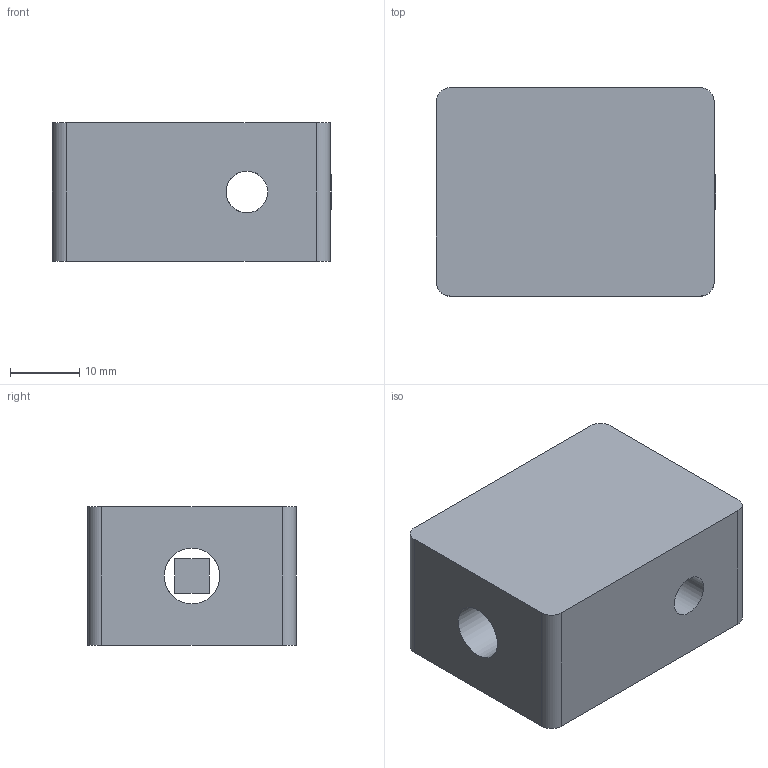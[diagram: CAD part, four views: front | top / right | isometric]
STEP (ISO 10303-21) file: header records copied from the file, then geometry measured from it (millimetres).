
FILE_DESCRIPTION(('Open CASCADE Model'),'2;1');
FILE_NAME('Open CASCADE Shape Model','2026-09-13T14:05:14',('Author'),( 'Open CASCADE'),'Open CASCADE STEP processor 7.8','Open CASCADE 7.8' ,'Unknown');
FILE_SCHEMA(('AUTOMOTIVE_DESIGN { 1 0 10303 214 1 1 1 1 }'));
Length unit declared in the file: millimetre
Products named in the file (3): Open CASCADE STEP translator 7.8 2; Open CASCADE STEP translator 7.8 2.1; Open CASCADE STEP translator 7.8 2.2
Assembly tree (2 placements, depth 2):
  Open CASCADE STEP translator 7.8 2
    Open CASCADE STEP translator 7.8 2.1
    Open CASCADE STEP translator 7.8 2.2
Bounding box: 40.2 x 30 x 20 mm (x, y, z)
Volume: 21283.9 mm3; surface area: 6401.9 mm2
Topology: 2 solids, 2 shells, 19 faces, 47 edges, 31 vertices
Faces by surface type: plane 12, cylinder 7
Full cylindrical faces by diameter (mm): 6 x2, 8 x1
Entity records: 1901 total; most frequent: CARTESIAN_POINT 899, DIRECTION 182, LINE 108, VECTOR 108, ORIENTED_EDGE 94, PCURVE 94, DEFINITIONAL_REPRESENTATION 94, EDGE_CURVE 47
